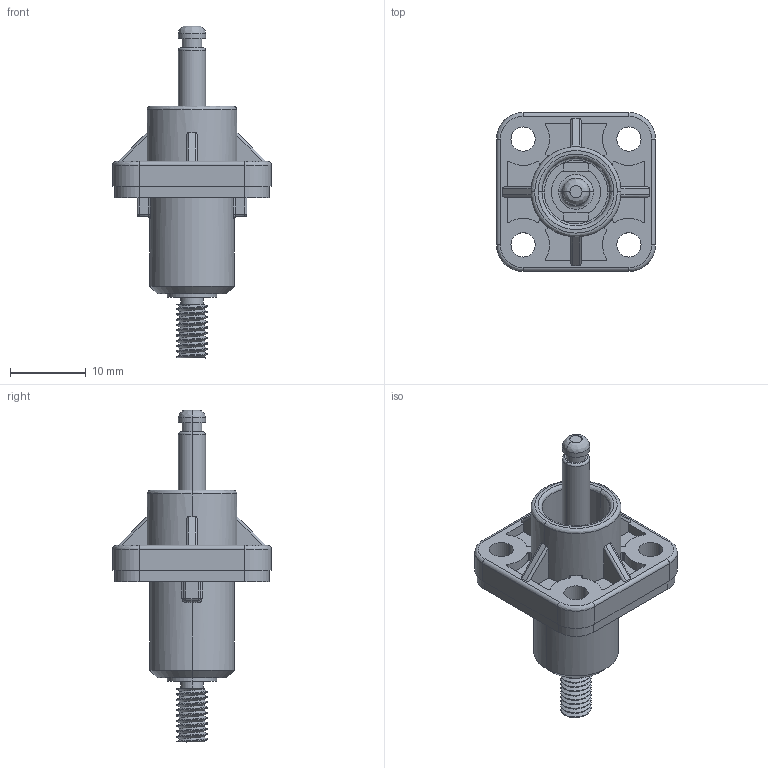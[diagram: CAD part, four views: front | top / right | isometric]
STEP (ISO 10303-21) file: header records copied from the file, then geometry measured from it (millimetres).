
FILE_DESCRIPTION (( 'STEP AP214' ), '1' );
FILE_NAME ('RL9036-10X-F1.STEP', '2017-01-12T01:22:54', ( '' ), ( '' ), 'SwSTEP 2.0', 'SolidWorks 2014', '' );
FILE_SCHEMA (( 'AUTOMOTIVE_DESIGN' ));
Length unit declared in the file: millimetre
Products named in the file (1): RL9036-10X-F1
Bounding box: 21 x 21 x 43.9 mm (x, y, z)
Volume: 3659.8 mm3; surface area: 2828 mm2
Topology: 1 solids, 1 shells, 244 faces, 643 edges, 411 vertices
Faces by surface type: cylinder 134, plane 79, bspline 29, cone 2
Entity records: 9066 total; most frequent: CARTESIAN_POINT 3166, ORIENTED_EDGE 1276, DIRECTION 1215, EDGE_CURVE 638, AXIS2_PLACEMENT_3D 457, VERTEX_POINT 411, VECTOR 301, LINE 301
